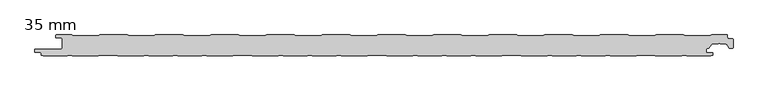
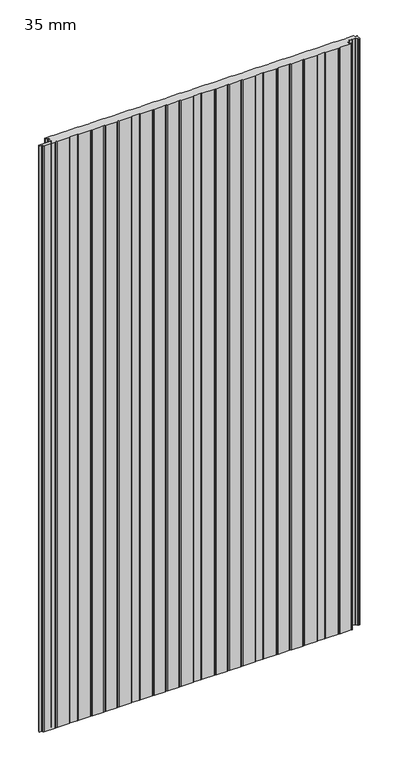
"""IFC4 building model written with IfcOpenShell, lengths in millimetres: plate geometry, HIANSA PANEL - H20.F02.002-PANELES DE FACHADA VERTICAL - PANEL PERFILADO - Panel de Muro Cortina : 35 mm."""

from ifc_helpers import new_model, si_unit, frame, origin, place, context, project, spatial, polyline, circle_curve, source, transform, mapped, element, save
from ifc_brep_helpers import plane_surface, cylinder_surface, revolved_surface, advanced_brep


def plate_35_mm_bfe862cc(model_context):
    return source(origin(), model_context, "Body", "AdvancedBrep", [
        advanced_brep(
        [(538.9050596, -33.8752798, 2200.0), (539.9655098, -32.5170803, 2200.0), (539.9655098, -29.8776596, 2200.0), (530.7999998, -29.8776596, 2200.0), (529.2999998, -28.3776596, 2200.0), (529.2999998, -24.1276596, 2200.0), (530.7999998, -22.6276596, 2200.0), (532.401303, -22.6276596, 2200.0), (533.630031, -21.9880243, 2200.0), (537.8715505, -15.9305067, 2200.0), (539.5098546, -15.0776596, 2200.0), (548.6062273, -15.0776596, 2200.0), (549.7990477, -14.3889845, 2200.0), (550.7990477, -14.3889845, 2200.0), (551.991868, -15.0776596, 2200.0), (561.0896683, -15.0776596, 2200.0), (562.7279724, -15.9305067, 2200.0), (566.9694918, -21.9880243, 2200.0), (568.1982199, -22.6276596, 2200.0), (571.5805695, -22.6276596, 2200.0), (573.0805695, -21.1276596, 2200.0), (573.0810464, -7.7494039, 2200.0), (572.0803311, -6.7486887, 2200.0), (565.9337882, -6.7486887, 2200.0), (563.9323512, -4.7472517, 2200.0), (563.9323512, -1.4941037, 2200.0), (562.9382476, -0.5, 2200.0), (538.0627765, -0.5, 2200.0), (535.0504226, -1.5005169, 2200.0), (494.888145, -1.5005169, 2200.0), (491.8865943, -0.5, 2200.0), (447.0519733, -0.5, 2200.0), (444.0504226, -1.5005169, 2200.0), (403.888145, -1.5005169, 2200.0), (400.8865943, -0.5, 2200.0), (356.0519733, -0.5, 2200.0), (353.0504226, -1.5005169, 2200.0), (312.888145, -1.5005169, 2200.0), (309.8865943, -0.5, 2200.0), (265.0519733, -0.5, 2200.0), (262.0504226, -1.5005169, 2200.0), (221.888145, -1.5005169, 2200.0), (218.8865943, -0.5, 2200.0), (174.0519733, -0.5, 2200.0), (171.0504226, -1.5005169, 2200.0), (130.888145, -1.5005169, 2200.0), (127.8865943, -0.5, 2200.0), (83.0519733, -0.5, 2200.0), (80.0504226, -1.5005169, 2200.0), (39.888145, -1.5005169, 2200.0), (36.8865943, -0.5, 2200.0), (-7.9480267, -0.5, 2200.0), (-10.9495774, -1.5005169, 2200.0), (-51.111855, -1.5005169, 2200.0), (-54.1134057, -0.5, 2200.0), (-98.9480267, -0.5, 2200.0), (-101.9495774, -1.5005169, 2200.0), (-142.111855, -1.5005169, 2200.0), (-145.1134057, -0.5, 2200.0), (-189.9480267, -0.5, 2200.0), (-192.9495774, -1.5005169, 2200.0), (-233.111855, -1.5005169, 2200.0), (-236.1134057, -0.5, 2200.0), (-280.9480267, -0.5, 2200.0), (-283.9495774, -1.5005169, 2200.0), (-324.111855, -1.5005169, 2200.0), (-327.1134057, -0.5, 2200.0), (-371.9480267, -0.5, 2200.0), (-374.9495774, -1.5005169, 2200.0), (-415.111855, -1.5005169, 2200.0), (-418.1134057, -0.5, 2200.0), (-462.9480267, -0.5, 2200.0), (-465.9495774, -1.5005169, 2200.0), (-506.111855, -1.5005169, 2200.0), (-509.1037329, -0.5, 2200.0), (-534.0319041, -0.5, 2200.0), (-535.0319599, -1.5000258, 2200.0), (-535.0322739, -4.4999967, 2200.0), (-534.0322682, -5.5000043, 2200.0), (-526.4181879, -5.5004096, 2200.0), (-524.3789536, -7.5396439, 2200.0), (-524.3789536, -21.3470846, 2200.0), (-526.9158188, -23.8839497, 2200.0), (-569.2000002, -23.8839497, 2200.0), (-569.2000002, -28.6276596, 2200.0), (-560.5344902, -28.6276596, 2200.0), (-559.0344903, -30.1276596, 2200.0), (-559.0344903, -32.5178943, 2200.0), (-557.9748297, -33.8750825, 2200.0), (-555.4751594, -34.5, 2200.0), (-516.3760428, -34.5, 2200.0), (-512.31449, -33.4846118, 2200.0), (-508.2529372, -34.5, 2200.0), (-465.1734067, -34.5, 2200.0), (-462.1734067, -33.5, 2200.0), (-436.899129, -33.5, 2200.0), (-433.899129, -34.5, 2200.0), (-390.8195984, -34.5, 2200.0), (-386.7580456, -33.4846118, 2200.0), (-382.6964928, -34.5, 2200.0), (-343.5973762, -34.5, 2200.0), (-339.5358234, -33.4846118, 2200.0), (-335.4742706, -34.5, 2200.0), (-296.375154, -34.5, 2200.0), (-292.3136012, -33.4846118, 2200.0), (-288.2520484, -34.5, 2200.0), (-245.1725179, -34.5, 2200.0), (-242.1725179, -33.5, 2200.0), (-216.8982402, -33.5, 2200.0), (-213.8982402, -34.5, 2200.0), (-170.8187096, -34.5, 2200.0), (-166.7571568, -33.4846118, 2200.0), (-162.695604, -34.5, 2200.0), (-123.5964874, -34.5, 2200.0), (-119.5349346, -33.4846118, 2200.0), (-115.4733818, -34.5, 2200.0), (-76.3742652, -34.5, 2200.0), (-72.3127124, -33.4846118, 2200.0), (-68.2511596, -34.5, 2200.0), (-25.1716291, -34.5, 2200.0), (-22.1716291, -33.5, 2200.0), (3.1026486, -33.5, 2200.0), (6.1026486, -34.5, 2200.0), (49.1821792, -34.5, 2200.0), (53.243732, -33.4846118, 2200.0), (57.3052848, -34.5, 2200.0), (96.4044014, -34.5, 2200.0), (100.4659542, -33.4846118, 2200.0), (104.527507, -34.5, 2200.0), (143.6266236, -34.5, 2200.0), (147.6881764, -33.4846118, 2200.0), (151.7497292, -34.5, 2200.0), (194.8292597, -34.5, 2200.0), (197.8292597, -33.5, 2200.0), (223.1035374, -33.5, 2200.0), (226.1035374, -34.5, 2200.0), (269.183068, -34.5, 2200.0), (273.2446208, -33.4846118, 2200.0), (277.3061736, -34.5, 2200.0), (316.4052902, -34.5, 2200.0), (320.466843, -33.4846118, 2200.0), (324.5283958, -34.5, 2200.0), (363.6275124, -34.5, 2200.0), (367.6890652, -33.4846118, 2200.0), (371.750618, -34.5, 2200.0), (414.8301485, -34.5, 2200.0), (417.8301485, -33.5, 2200.0), (443.1044262, -33.5, 2200.0), (446.1044262, -34.5, 2200.0), (489.1839568, -34.5, 2200.0), (493.2455096, -33.4846118, 2200.0), (497.3070624, -34.5, 2200.0), (536.406179, -34.5, 2200.0), (538.9050596, -33.8752798, 0.0), (536.406179, -34.5, 0.0), (497.3070624, -34.5, 0.0), (493.2455096, -33.4846118, 0.0), (489.1839568, -34.5, 0.0), (446.1044262, -34.5, 0.0), (443.1044262, -33.5, 0.0), (417.8301485, -33.5, 0.0), (414.8301485, -34.5, 0.0), (371.750618, -34.5, 0.0), (367.6890652, -33.4846118, 0.0), (363.6275124, -34.5, 0.0), (324.5283958, -34.5, 0.0), (320.466843, -33.4846118, 0.0), (316.4052902, -34.5, 0.0), (277.3061736, -34.5, 0.0), (273.2446208, -33.4846118, 0.0), (269.183068, -34.5, 0.0), (226.1035374, -34.5, 0.0), (223.1035374, -33.5, 0.0), (197.8292597, -33.5, 0.0), (194.8292597, -34.5, 0.0), (151.7497292, -34.5, 0.0), (147.6881764, -33.4846118, 0.0), (143.6266236, -34.5, 0.0), (104.527507, -34.5, 0.0), (100.4659542, -33.4846118, 0.0), (96.4044014, -34.5, 0.0), (57.3052848, -34.5, 0.0), (53.243732, -33.4846118, 0.0), (49.1821792, -34.5, 0.0), (6.1026486, -34.5, 0.0), (3.1026486, -33.5, 0.0), (-22.1716291, -33.5, 0.0), (-25.1716291, -34.5, 0.0), (-68.2511596, -34.5, 0.0), (-72.3127124, -33.4846118, 0.0), (-76.3742652, -34.5, 0.0), (-115.4733818, -34.5, 0.0), (-119.5349346, -33.4846118, 0.0), (-123.5964874, -34.5, 0.0), (-162.695604, -34.5, 0.0), (-166.7571568, -33.4846118, 0.0), (-170.8187096, -34.5, 0.0), (-213.8982402, -34.5, 0.0), (-216.8982402, -33.5, 0.0), (-242.1725179, -33.5, 0.0), (-245.1725179, -34.5, 0.0), (-288.2520484, -34.5, 0.0), (-292.3136012, -33.4846118, 0.0), (-296.375154, -34.5, 0.0), (-335.4742706, -34.5, 0.0), (-339.5358234, -33.4846118, 0.0), (-343.5973762, -34.5, 0.0), (-382.6964928, -34.5, 0.0), (-386.7580456, -33.4846118, 0.0), (-390.8195984, -34.5, 0.0), (-433.899129, -34.5, 0.0), (-436.899129, -33.5, 0.0), (-462.1734067, -33.5, 0.0), (-465.1734067, -34.5, 0.0), (-508.2529372, -34.5, 0.0), (-512.31449, -33.4846118, 0.0), (-516.3760428, -34.5, 0.0), (-555.4751594, -34.5, 0.0), (-557.9748297, -33.8750825, 0.0), (-559.0344903, -32.5178943, 0.0), (-559.0344903, -30.1276596, 0.0), (-560.5344902, -28.6276596, 0.0), (-569.2000002, -28.6276596, 0.0), (-569.2000002, -23.8839497, 0.0), (-526.9158188, -23.8839497, 0.0), (-524.3789536, -21.3470846, 0.0), (-524.3789536, -7.5396439, 0.0), (-526.4181879, -5.5004096, 0.0), (-534.0322682, -5.5004096, 0.0), (-535.0322739, -4.4999967, 0.0), (-535.0319599, -1.5000258, 0.0), (-534.0319041, -0.5, 0.0), (-509.1037329, -0.5, 0.0), (-506.111855, -1.5005169, 0.0), (-465.9495774, -1.5005169, 0.0), (-462.9480267, -0.5, 0.0), (-418.1134057, -0.5, 0.0), (-415.111855, -1.5005169, 0.0), (-374.9495774, -1.5005169, 0.0), (-371.9480267, -0.5, 0.0), (-327.1134057, -0.5, 0.0), (-324.111855, -1.5005169, 0.0), (-283.9495774, -1.5005169, 0.0), (-280.9480267, -0.5, 0.0), (-236.1134057, -0.5, 0.0), (-233.111855, -1.5005169, 0.0), (-192.9495774, -1.5005169, 0.0), (-189.9480267, -0.5, 0.0), (-145.1134057, -0.5, 0.0), (-142.111855, -1.5005169, 0.0), (-101.9495774, -1.5005169, 0.0), (-98.9480267, -0.5, 0.0), (-54.1134057, -0.5, 0.0), (-51.111855, -1.5005169, 0.0), (-10.9495774, -1.5005169, 0.0), (-7.9480267, -0.5, 0.0), (36.8865943, -0.5, 0.0), (39.888145, -1.5005169, 0.0), (80.0504226, -1.5005169, 0.0), (83.0519733, -0.5, 0.0), (127.8865943, -0.5, 0.0), (130.888145, -1.5005169, 0.0), (171.0504226, -1.5005169, 0.0), (174.0519733, -0.5, 0.0), (218.8865943, -0.5, 0.0), (221.888145, -1.5005169, 0.0), (262.0504226, -1.5005169, 0.0), (265.0519733, -0.5, 0.0), (309.8865943, -0.5, 0.0), (312.888145, -1.5005169, 0.0), (353.0504226, -1.5005169, 0.0), (356.0519733, -0.5, 0.0), (400.8865943, -0.5, 0.0), (403.888145, -1.5005169, 0.0), (444.0504226, -1.5005169, 0.0), (447.0519733, -0.5, 0.0), (491.8865943, -0.5, 0.0), (494.888145, -1.5005169, 0.0), (535.0504226, -1.5005169, 0.0), (538.0627765, -0.5, 0.0), (562.9382476, -0.5, 0.0), (563.9323512, -1.4941037, 0.0), (563.9323512, -4.7472517, 0.0), (565.9337882, -6.7486887, 0.0), (572.0803311, -6.7486887, 0.0), (573.0810464, -7.7494039, 0.0), (573.0810464, -21.1276596, 0.0), (571.5805695, -22.6276596, 0.0), (568.1982199, -22.6276596, 0.0), (566.9694918, -21.9880243, 0.0), (562.7279724, -15.9305067, 0.0), (561.0896683, -15.0776596, 0.0), (551.991868, -15.0776596, 0.0), (550.7990477, -14.3889845, 0.0), (549.7990477, -14.3889845, 0.0), (548.6062273, -15.0776596, 0.0), (539.5098546, -15.0776596, 0.0), (537.8715505, -15.9305067, 0.0), (533.630031, -21.9880243, 0.0), (532.401303, -22.6276596, 0.0), (530.7999998, -22.6276596, 0.0), (529.2999998, -24.1276596, 0.0), (529.2999998, -28.3776596, 0.0), (530.7999998, -29.8776596, 0.0), (539.9655098, -29.8776596, 0.0), (539.9655098, -32.5170803, 0.0)],
        [
            (0, 1, circle_curve(frame((538.5655098, -32.5170803, 2200.0), z_axis=(0.0, 0.0, 1.0), x_axis=(1.0, 0.0, 0.0)), 1.4)),
            (1, 2),
            (2, 3),
            (3, 4, circle_curve(frame((530.7999998, -28.3776596, 2200.0), z_axis=(0.0, 0.0, -1.0), x_axis=(1.0, 0.0, 0.0)), 1.5)),
            (4, 5),
            (5, 6, circle_curve(frame((530.7999998, -24.1276596, 2200.0), z_axis=(0.0, 0.0, -1.0), x_axis=(1.0, 0.0, 0.0)), 1.5)),
            (6, 7),
            (7, 8, circle_curve(frame((532.401303, -21.1276596, 2200.0), z_axis=(0.0, 0.0, 1.0), x_axis=(1.0, 0.0, 0.0)), 1.5)),
            (8, 9),
            (9, 10, circle_curve(frame((539.5098546, -17.0776596, 2200.0), z_axis=(0.0, 0.0, -1.0), x_axis=(1.0, 0.0, 0.0)), 2.0)),
            (10, 11),
            (11, 12),
            (12, 13, circle_curve(frame((550.2990477, -15.2550099, 2200.0), z_axis=(0.0, 0.0, -1.0), x_axis=(1.0, 0.0, 0.0)), 1.0)),
            (13, 14),
            (14, 15),
            (15, 16, circle_curve(frame((561.0896683, -17.0776596, 2200.0), z_axis=(0.0, 0.0, -1.0), x_axis=(1.0, 0.0, 0.0)), 2.0)),
            (16, 17),
            (17, 18, circle_curve(frame((568.1982199, -21.1276596, 2200.0), z_axis=(0.0, 0.0, 1.0), x_axis=(1.0, 0.0, 0.0)), 1.5)),
            (18, 19),
            (19, 20, circle_curve(frame((571.5805695, -21.1276596, 2200.0), z_axis=(0.0, 0.0, 1.0), x_axis=(1.0, 0.0, 0.0)), 1.5)),
            (20, 21),
            (21, 22, circle_curve(frame((572.0803311, -7.7494039, 2200.0), z_axis=(0.0, 0.0, 1.0), x_axis=(1.0, 0.0, 0.0)), 1.0007153)),
            (22, 23),
            (23, 24, circle_curve(frame((565.9337882, -4.7472517, 2200.0), z_axis=(0.0, 0.0, -1.0), x_axis=(1.0, 0.0, 0.0)), 2.0014369)),
            (24, 25),
            (25, 26, circle_curve(frame((562.9382476, -1.4941037, 2200.0), z_axis=(0.0, 0.0, 1.0), x_axis=(1.0, 0.0, 0.0)), 0.9941037)),
            (26, 27),
            (27, 28),
            (28, 29),
            (29, 30),
            (30, 31),
            (31, 32),
            (32, 33),
            (33, 34),
            (34, 35),
            (35, 36),
            (36, 37),
            (37, 38),
            (38, 39),
            (39, 40),
            (40, 41),
            (41, 42),
            (42, 43),
            (43, 44),
            (44, 45),
            (45, 46),
            (46, 47),
            (47, 48),
            (48, 49),
            (49, 50),
            (50, 51),
            (51, 52),
            (52, 53),
            (53, 54),
            (54, 55),
            (55, 56),
            (56, 57),
            (57, 58),
            (58, 59),
            (59, 60),
            (60, 61),
            (61, 62),
            (62, 63),
            (63, 64),
            (64, 65),
            (65, 66),
            (66, 67),
            (67, 68),
            (68, 69),
            (69, 70),
            (70, 71),
            (71, 72),
            (72, 73),
            (73, 74),
            (74, 75),
            (75, 76, circle_curve(frame((-534.0319041, -1.5000558, 2200.0), z_axis=(0.0, 0.0, 1.0), x_axis=(1.0, 0.0, 0.0)), 1.0000558)),
            (76, 77),
            (77, 78, circle_curve(frame((-534.0322682, -4.4999986, 2200.0), z_axis=(0.0, 0.0, 1.0), x_axis=(1.0, 0.0, 0.0)), 1.0000057)),
            (78, 79),
            (79, 80, circle_curve(frame((-526.4181879, -7.5396439, 2200.0), z_axis=(0.0, 0.0, -1.0), x_axis=(1.0, 0.0, 0.0)), 2.0392343)),
            (80, 81),
            (81, 82, circle_curve(frame((-526.9158188, -21.3470846, 2200.0), z_axis=(0.0, 0.0, -1.0), x_axis=(1.0, 0.0, 0.0)), 2.5368651)),
            (82, 83),
            (83, 84),
            (84, 85),
            (85, 86, circle_curve(frame((-560.5344902, -30.1276596, 2200.0), z_axis=(0.0, 0.0, -1.0), x_axis=(1.0, 0.0, 0.0)), 1.5)),
            (86, 87),
            (87, 88, circle_curve(frame((-557.6355327, -32.5178943, 2200.0), z_axis=(0.0, 0.0, 1.0), x_axis=(1.0, 0.0, 0.0)), 1.3989576)),
            (88, 89),
            (89, 90),
            (90, 91),
            (91, 92),
            (92, 93),
            (93, 94),
            (94, 95),
            (95, 96),
            (96, 97),
            (97, 98),
            (98, 99),
            (99, 100),
            (100, 101),
            (101, 102),
            (102, 103),
            (103, 104),
            (104, 105),
            (105, 106),
            (106, 107),
            (107, 108),
            (108, 109),
            (109, 110),
            (110, 111),
            (111, 112),
            (112, 113),
            (113, 114),
            (114, 115),
            (115, 116),
            (116, 117),
            (117, 118),
            (118, 119),
            (119, 120),
            (120, 121),
            (121, 122),
            (122, 123),
            (123, 124),
            (124, 125),
            (125, 126),
            (126, 127),
            (127, 128),
            (128, 129),
            (129, 130),
            (130, 131),
            (131, 132),
            (132, 133),
            (133, 134),
            (134, 135),
            (135, 136),
            (136, 137),
            (137, 138),
            (138, 139),
            (139, 140),
            (140, 141),
            (141, 142),
            (142, 143),
            (143, 144),
            (144, 145),
            (145, 146),
            (146, 147),
            (147, 148),
            (148, 149),
            (149, 150),
            (150, 151),
            (151, 152),
            (152, 0),
            (153, 154),
            (154, 155),
            (155, 156),
            (156, 157),
            (157, 158),
            (158, 159),
            (159, 160),
            (160, 161),
            (161, 162),
            (162, 163),
            (163, 164),
            (164, 165),
            (165, 166),
            (166, 167),
            (167, 168),
            (168, 169),
            (169, 170),
            (170, 171),
            (171, 172),
            (172, 173),
            (173, 174),
            (174, 175),
            (175, 176),
            (176, 177),
            (177, 178),
            (178, 179),
            (179, 180),
            (180, 181),
            (181, 182),
            (182, 183),
            (183, 184),
            (184, 185),
            (185, 186),
            (186, 187),
            (187, 188),
            (188, 189),
            (189, 190),
            (190, 191),
            (191, 192),
            (192, 193),
            (193, 194),
            (194, 195),
            (195, 196),
            (196, 197),
            (197, 198),
            (198, 199),
            (199, 200),
            (200, 201),
            (201, 202),
            (202, 203),
            (203, 204),
            (204, 205),
            (205, 206),
            (206, 207),
            (207, 208),
            (208, 209),
            (209, 210),
            (210, 211),
            (211, 212),
            (212, 213),
            (213, 214),
            (214, 215),
            (215, 216),
            (216, 217),
            (217, 218),
            (218, 219, circle_curve(frame((-557.6355327, -32.5178943, 0.0), z_axis=(0.0, 0.0, -1.0), x_axis=(1.0, 0.0, 0.0)), 1.3989576)),
            (219, 220),
            (220, 221, circle_curve(frame((-560.5344902, -30.1276596, 0.0), z_axis=(0.0, 0.0, 1.0), x_axis=(1.0, 0.0, 0.0)), 1.5)),
            (221, 222),
            (222, 223),
            (223, 224),
            (224, 225, circle_curve(frame((-526.9158188, -21.3470846, 0.0), z_axis=(0.0, 0.0, 1.0), x_axis=(1.0, 0.0, 0.0)), 2.5368651)),
            (225, 226),
            (226, 227, circle_curve(frame((-526.4181879, -7.5396439, 0.0), z_axis=(0.0, 0.0, 1.0), x_axis=(1.0, 0.0, 0.0)), 2.0392343)),
            (227, 228),
            (228, 229, circle_curve(frame((-534.0322682, -4.4999986, 0.0), z_axis=(0.0, 0.0, -1.0), x_axis=(1.0, 0.0, 0.0)), 1.0000057)),
            (229, 230),
            (230, 231, circle_curve(frame((-534.0319041, -1.5000558, 0.0), z_axis=(0.0, 0.0, -1.0), x_axis=(1.0, 0.0, 0.0)), 1.0000558)),
            (231, 232),
            (232, 233),
            (233, 234),
            (234, 235),
            (235, 236),
            (236, 237),
            (237, 238),
            (238, 239),
            (239, 240),
            (240, 241),
            (241, 242),
            (242, 243),
            (243, 244),
            (244, 245),
            (245, 246),
            (246, 247),
            (247, 248),
            (248, 249),
            (249, 250),
            (250, 251),
            (251, 252),
            (252, 253),
            (253, 254),
            (254, 255),
            (255, 256),
            (256, 257),
            (257, 258),
            (258, 259),
            (259, 260),
            (260, 261),
            (261, 262),
            (262, 263),
            (263, 264),
            (264, 265),
            (265, 266),
            (266, 267),
            (267, 268),
            (268, 269),
            (269, 270),
            (270, 271),
            (271, 272),
            (272, 273),
            (273, 274),
            (274, 275),
            (275, 276),
            (276, 277),
            (277, 278),
            (278, 279),
            (279, 280),
            (280, 281, circle_curve(frame((562.9382476, -1.4941037, 0.0), z_axis=(0.0, 0.0, -1.0), x_axis=(1.0, 0.0, 0.0)), 0.9941037)),
            (281, 282),
            (282, 283, circle_curve(frame((565.9337882, -4.7472517, 0.0), z_axis=(0.0, 0.0, 1.0), x_axis=(1.0, 0.0, 0.0)), 2.0014369)),
            (283, 284),
            (284, 285, circle_curve(frame((572.0803311, -7.7494039, 0.0), z_axis=(0.0, 0.0, -1.0), x_axis=(1.0, 0.0, 0.0)), 1.0007153)),
            (285, 286),
            (286, 287, circle_curve(frame((571.5805695, -21.1276596, 0.0), z_axis=(0.0, 0.0, -1.0), x_axis=(1.0, 0.0, 0.0)), 1.5)),
            (287, 288),
            (288, 289, circle_curve(frame((568.1982199, -21.1276596, 0.0), z_axis=(0.0, 0.0, -1.0), x_axis=(1.0, 0.0, 0.0)), 1.5)),
            (289, 290),
            (290, 291, circle_curve(frame((561.0896683, -17.0776596, 0.0), z_axis=(0.0, 0.0, 1.0), x_axis=(1.0, 0.0, 0.0)), 2.0)),
            (291, 292),
            (292, 293),
            (293, 294, circle_curve(frame((550.2990477, -15.2550099, 0.0), z_axis=(0.0, 0.0, 1.0), x_axis=(1.0, 0.0, 0.0)), 1.0)),
            (294, 295),
            (295, 296),
            (296, 297, circle_curve(frame((539.5098546, -17.0776596, 0.0), z_axis=(0.0, 0.0, 1.0), x_axis=(1.0, 0.0, 0.0)), 2.0)),
            (297, 298),
            (298, 299, circle_curve(frame((532.401303, -21.1276596, 0.0), z_axis=(0.0, 0.0, -1.0), x_axis=(1.0, 0.0, 0.0)), 1.5)),
            (299, 300),
            (300, 301, circle_curve(frame((530.7999998, -24.1276596, 0.0), z_axis=(0.0, 0.0, 1.0), x_axis=(1.0, 0.0, 0.0)), 1.5)),
            (301, 302),
            (302, 303, circle_curve(frame((530.7999998, -28.3776596, 0.0), z_axis=(0.0, 0.0, 1.0), x_axis=(1.0, 0.0, 0.0)), 1.5)),
            (303, 304),
            (304, 305),
            (305, 153, circle_curve(frame((538.5655098, -32.5170803, 0.0), z_axis=(0.0, 0.0, -1.0), x_axis=(1.0, 0.0, 0.0)), 1.4)),
            (88, 218),
            (217, 89),
            (87, 219),
            (86, 220),
            (85, 221),
            (84, 222),
            (83, 223),
            (82, 224),
            (81, 225),
            (80, 226),
            (79, 227),
            (78, 228),
            (25, 281),
            (280, 26),
            (24, 282),
            (23, 283),
            (21, 285),
            (284, 22),
            (20, 286),
            (19, 287),
            (18, 288),
            (17, 289),
            (16, 290),
            (15, 291),
            (9, 297),
            (296, 10),
            (8, 298),
            (7, 299),
            (6, 300),
            (5, 301),
            (4, 302),
            (3, 303),
            (2, 304),
            (1, 305),
            (0, 153),
            (152, 154),
            (151, 155),
            (150, 156),
            (149, 157),
            (148, 158),
            (147, 159),
            (146, 160),
            (145, 161),
            (144, 162),
            (143, 163),
            (142, 164),
            (141, 165),
            (140, 166),
            (139, 167),
            (138, 168),
            (137, 169),
            (136, 170),
            (135, 171),
            (134, 172),
            (133, 173),
            (132, 174),
            (131, 175),
            (130, 176),
            (129, 177),
            (128, 178),
            (127, 179),
            (126, 180),
            (125, 181),
            (124, 182),
            (123, 183),
            (122, 184),
            (121, 185),
            (120, 186),
            (119, 187),
            (118, 188),
            (117, 189),
            (116, 190),
            (115, 191),
            (114, 192),
            (113, 193),
            (112, 194),
            (111, 195),
            (110, 196),
            (109, 197),
            (108, 198),
            (107, 199),
            (106, 200),
            (105, 201),
            (104, 202),
            (103, 203),
            (102, 204),
            (101, 205),
            (100, 206),
            (99, 207),
            (98, 208),
            (97, 209),
            (96, 210),
            (95, 211),
            (94, 212),
            (93, 213),
            (92, 214),
            (91, 215),
            (90, 216),
            (74, 232),
            (231, 75),
            (73, 233),
            (72, 234),
            (71, 235),
            (70, 236),
            (69, 237),
            (68, 238),
            (67, 239),
            (66, 240),
            (65, 241),
            (64, 242),
            (63, 243),
            (62, 244),
            (61, 245),
            (60, 246),
            (59, 247),
            (58, 248),
            (57, 249),
            (56, 250),
            (55, 251),
            (54, 252),
            (53, 253),
            (52, 254),
            (51, 255),
            (50, 256),
            (49, 257),
            (48, 258),
            (47, 259),
            (46, 260),
            (45, 261),
            (44, 262),
            (43, 263),
            (42, 264),
            (41, 265),
            (40, 266),
            (39, 267),
            (38, 268),
            (37, 269),
            (36, 270),
            (35, 271),
            (34, 272),
            (33, 273),
            (32, 274),
            (31, 275),
            (30, 276),
            (29, 277),
            (28, 278),
            (27, 279),
            (14, 292),
            (13, 293),
            (12, 294),
            (11, 295),
            (77, 229),
            (76, 230),
        ],
        [
            plane_surface(frame((-550.0000002, 0.0, 2200.0), z_axis=(0.0, 0.0, 1.0), x_axis=(-1.0, 0.0, 0.0))),
            plane_surface(frame((-550.0000002, 0.0, 0.0), z_axis=(0.0, 0.0, -1.0), x_axis=(-1.0, 0.0, 0.0))),
            plane_surface(frame((-555.4751594, -34.5, 2200.0), z_axis=(-0.2425356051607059, -0.9701425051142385, 0.0), x_axis=(0.0, 0.0, -1.0))),
            cylinder_surface(frame((-557.6355327, -32.5178943, 2200.0), z_axis=(0.0, 0.0, 1.0), x_axis=(1.0, 0.0, 0.0)), 1.3989576),
            plane_surface(frame((-559.0344903, -32.5178943, 2200.0), z_axis=(-1.0, 0.0, 0.0), x_axis=(0.0, 0.0, -1.0))),
            revolved_surface(polyline([(-559.0344902, -30.1276596, 0.0), (-559.0344902, -30.1276596, 2200.0)]), (-560.5344902, -30.1276596, 2200.0), (0.0, 0.0, -1.0)),
            plane_surface(frame((-560.5344902, -28.6276596, 2200.0), z_axis=(0.0, -1.0, 0.0), x_axis=(0.0, 0.0, -1.0))),
            plane_surface(frame((-569.2000002, -28.6276596, 2200.0), z_axis=(-1.0, 0.0, 0.0), x_axis=(0.0, 0.0, -1.0))),
            plane_surface(frame((-569.2000002, -23.8839497, 2200.0), z_axis=(0.0, 1.0, 0.0), x_axis=(0.0, 0.0, -1.0))),
            revolved_surface(polyline([(-524.3789537, -21.3470846, 0.0), (-524.3789537, -21.3470846, 2200.0)]), (-526.9158188, -21.3470846, 2200.0), (0.0, 0.0, -1.0)),
            plane_surface(frame((-524.3789536, -21.3470846, 2200.0), z_axis=(-1.0, 0.0, 0.0), x_axis=(0.0, 0.0, -1.0))),
            revolved_surface(polyline([(-524.3789536, -7.5396439, 0.0), (-524.3789536, -7.5396439, 2200.0)]), (-526.4181879, -7.5396439, 2200.0), (0.0, 0.0, -1.0)),
            plane_surface(frame((-526.4181879, -5.5004096, 2200.0), z_axis=(0.0, -1.0, 0.0), x_axis=(0.0, 0.0, -1.0))),
            cylinder_surface(frame((562.9382476, -1.4941037, 2200.0), z_axis=(0.0, 0.0, 1.0), x_axis=(1.0, 0.0, 0.0)), 0.9941037),
            plane_surface(frame((563.9323512, -1.4941037, 2200.0), z_axis=(1.0, 0.0, 0.0), x_axis=(0.0, 0.0, -1.0))),
            revolved_surface(polyline([(567.9352251, -4.7472517, 0.0), (567.9352251, -4.7472517, 2200.0)]), (565.9337882, -4.7472517, 2200.0), (0.0, 0.0, -1.0)),
            cylinder_surface(frame((572.0803311, -7.7494039, 2200.0), z_axis=(0.0, 0.0, 1.0), x_axis=(1.0, 0.0, 0.0)), 1.0007153),
            plane_surface(frame((573.0810464, -7.7494039, 2200.0), z_axis=(1.0, 0.0, 0.0), x_axis=(0.0, 0.0, -1.0))),
            cylinder_surface(frame((571.5805695, -21.1276596, 2200.0), z_axis=(0.0, 0.0, 1.0), x_axis=(1.0, 0.0, 0.0)), 1.5),
            plane_surface(frame((571.5805695, -22.6276596, 2200.0), z_axis=(0.0, -1.0, 0.0), x_axis=(0.0, 0.0, -1.0))),
            cylinder_surface(frame((568.1982199, -21.1276596, 2200.0), z_axis=(0.0, 0.0, 1.0), x_axis=(1.0, 0.0, 0.0)), 1.5),
            plane_surface(frame((566.9694918, -21.9880243, 2200.0), z_axis=(-0.8191520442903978, -0.5735764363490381, 0.0), x_axis=(0.0, 0.0, -1.0))),
            revolved_surface(polyline([(563.0896683, -17.0776596, 0.0), (563.0896683, -17.0776596, 2200.0)]), (561.0896683, -17.0776596, 2200.0), (0.0, 0.0, -1.0)),
            revolved_surface(polyline([(541.5098546, -17.0776596, 0.0), (541.5098546, -17.0776596, 2200.0)]), (539.5098546, -17.0776596, 2200.0), (0.0, 0.0, -1.0)),
            plane_surface(frame((537.8715505, -15.9305067, 2200.0), z_axis=(0.8191520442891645, -0.5735764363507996, 0.0), x_axis=(0.0, 0.0, -1.0))),
            cylinder_surface(frame((532.401303, -21.1276596, 2200.0), z_axis=(0.0, 0.0, 1.0), x_axis=(1.0, 0.0, 0.0)), 1.5),
            plane_surface(frame((532.401303, -22.6276596, 2200.0), z_axis=(0.0, -1.0, 0.0), x_axis=(0.0, 0.0, -1.0))),
            revolved_surface(polyline([(532.2999998, -24.1276596, 0.0), (532.2999998, -24.1276596, 2200.0)]), (530.7999998, -24.1276596, 2200.0), (0.0, 0.0, -1.0)),
            plane_surface(frame((529.2999998, -24.1276596, 2200.0), z_axis=(1.0, 0.0, 0.0), x_axis=(0.0, 0.0, -1.0))),
            revolved_surface(polyline([(532.2999998, -28.3776596, 0.0), (532.2999998, -28.3776596, 2200.0)]), (530.7999998, -28.3776596, 2200.0), (0.0, 0.0, -1.0)),
            plane_surface(frame((530.7999998, -29.8776596, 2200.0), z_axis=(0.0, 1.0, 0.0), x_axis=(0.0, 0.0, -1.0))),
            plane_surface(frame((539.9655098, -29.8776596, 2200.0), z_axis=(1.0, 0.0, 0.0), x_axis=(0.0, 0.0, -1.0))),
            cylinder_surface(frame((538.5655098, -32.5170803, 2200.0), z_axis=(0.0, 0.0, 1.0), x_axis=(1.0, 0.0, 0.0)), 1.4),
            plane_surface(frame((538.9050596, -33.8752798, 2200.0), z_axis=(0.2425356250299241, -0.9701425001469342, 0.0), x_axis=(0.0, 0.0, -1.0))),
            plane_surface(frame((565.9337882, -6.7486887, 2200.0), z_axis=(0.0, 1.0, 0.0), x_axis=(0.0, 0.0, -1.0))),
            plane_surface(frame((536.406179, -34.5, 2200.0), z_axis=(0.0, -1.0, 0.0), x_axis=(0.0, 0.0, -1.0))),
            plane_surface(frame((497.3070624, -34.5, 2200.0), z_axis=(-0.24253562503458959, -0.9701425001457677, 0.0), x_axis=(0.0, 0.0, -1.0))),
            plane_surface(frame((493.2455096, -33.4846118, 2200.0), z_axis=(0.24253562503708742, -0.9701425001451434, 0.0), x_axis=(0.0, 0.0, -1.0))),
            plane_surface(frame((489.1839568, -34.5, 2200.0), z_axis=(0.0, -1.0, 0.0), x_axis=(0.0, 0.0, -1.0))),
            plane_surface(frame((446.1044262, -34.5, 2200.0), z_axis=(-0.3162277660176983, -0.948683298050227, 0.0), x_axis=(0.0, 0.0, -1.0))),
            plane_surface(frame((443.1044262, -33.5, 2200.0), z_axis=(0.0, -1.0, 0.0), x_axis=(0.0, 0.0, -1.0))),
            plane_surface(frame((417.8301485, -33.5, 2200.0), z_axis=(0.3162277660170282, -0.9486832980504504, 0.0), x_axis=(0.0, 0.0, -1.0))),
            plane_surface(frame((414.8301485, -34.5, 2200.0), z_axis=(0.0, -1.0, 0.0), x_axis=(0.0, 0.0, -1.0))),
            plane_surface(frame((371.750618, -34.5, 2200.0), z_axis=(-0.24253562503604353, -0.9701425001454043, 0.0), x_axis=(0.0, 0.0, -1.0))),
            plane_surface(frame((367.6890652, -33.4846118, 2200.0), z_axis=(0.24253562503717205, -0.9701425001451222, 0.0), x_axis=(0.0, 0.0, -1.0))),
            plane_surface(frame((363.6275124, -34.5, 2200.0), z_axis=(0.0, -1.0, 0.0), x_axis=(0.0, 0.0, -1.0))),
            plane_surface(frame((324.5283958, -34.5, 2200.0), z_axis=(-0.2425356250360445, -0.970142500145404, 0.0), x_axis=(0.0, 0.0, -1.0))),
            plane_surface(frame((320.466843, -33.4846118, 2200.0), z_axis=(0.24253562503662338, -0.9701425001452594, 0.0), x_axis=(0.0, 0.0, -1.0))),
            plane_surface(frame((316.4052902, -34.5, 2200.0), z_axis=(0.0, -1.0, 0.0), x_axis=(0.0, 0.0, -1.0))),
            plane_surface(frame((277.3061736, -34.5, 2200.0), z_axis=(-0.2425356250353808, -0.97014250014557, 0.0), x_axis=(0.0, 0.0, -1.0))),
            plane_surface(frame((273.2446208, -33.4846118, 2200.0), z_axis=(0.24253562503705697, -0.9701425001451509, 0.0), x_axis=(0.0, 0.0, -1.0))),
            plane_surface(frame((269.183068, -34.5, 2200.0), z_axis=(0.0, -1.0, 0.0), x_axis=(0.0, 0.0, -1.0))),
            plane_surface(frame((226.1035374, -34.5, 2200.0), z_axis=(-0.31622776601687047, -0.948683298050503, 0.0), x_axis=(0.0, 0.0, -1.0))),
            plane_surface(frame((223.1035374, -33.5, 2200.0), z_axis=(0.0, -1.0, 0.0), x_axis=(0.0, 0.0, -1.0))),
            plane_surface(frame((197.8292597, -33.5, 2200.0), z_axis=(0.31622776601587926, -0.9486832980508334, 0.0), x_axis=(0.0, 0.0, -1.0))),
            plane_surface(frame((194.8292597, -34.5, 2200.0), z_axis=(0.0, -1.0, 0.0), x_axis=(0.0, 0.0, -1.0))),
            plane_surface(frame((151.7497292, -34.5, 2200.0), z_axis=(-0.24253562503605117, -0.9701425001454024, 0.0), x_axis=(0.0, 0.0, -1.0))),
            plane_surface(frame((147.6881764, -33.4846118, 2200.0), z_axis=(0.24253562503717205, -0.9701425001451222, 0.0), x_axis=(0.0, 0.0, -1.0))),
            plane_surface(frame((143.6266236, -34.5, 2200.0), z_axis=(0.0, -1.0, 0.0), x_axis=(0.0, 0.0, -1.0))),
            plane_surface(frame((104.527507, -34.5, 2200.0), z_axis=(-0.24253562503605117, -0.9701425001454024, 0.0), x_axis=(0.0, 0.0, -1.0))),
            plane_surface(frame((100.4659542, -33.4846118, 2200.0), z_axis=(0.24253562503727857, -0.9701425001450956, 0.0), x_axis=(0.0, 0.0, -1.0))),
            plane_surface(frame((96.4044014, -34.5, 2200.0), z_axis=(0.0, -1.0, 0.0), x_axis=(0.0, 0.0, -1.0))),
            plane_surface(frame((57.3052848, -34.5, 2200.0), z_axis=(-0.24253562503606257, -0.9701425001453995, 0.0), x_axis=(0.0, 0.0, -1.0))),
            plane_surface(frame((53.243732, -33.4846118, 2200.0), z_axis=(0.24253562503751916, -0.9701425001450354, 0.0), x_axis=(0.0, 0.0, -1.0))),
            plane_surface(frame((49.1821792, -34.5, 2200.0), z_axis=(0.0, -1.0, 0.0), x_axis=(0.0, 0.0, -1.0))),
            plane_surface(frame((6.1026486, -34.5, 2200.0), z_axis=(-0.31622776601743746, -0.948683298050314, 0.0), x_axis=(0.0, 0.0, -1.0))),
            plane_surface(frame((3.1026486, -33.5, 2200.0), z_axis=(0.0, -1.0, 0.0), x_axis=(0.0, 0.0, -1.0))),
            plane_surface(frame((-22.1716291, -33.5, 2200.0), z_axis=(0.31622776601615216, -0.9486832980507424, 0.0), x_axis=(0.0, 0.0, -1.0))),
            plane_surface(frame((-25.1716291, -34.5, 2200.0), z_axis=(0.0, -1.0, 0.0), x_axis=(0.0, 0.0, -1.0))),
            plane_surface(frame((-68.2511596, -34.5, 2200.0), z_axis=(-0.24253562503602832, -0.970142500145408, 0.0), x_axis=(0.0, 0.0, -1.0))),
            plane_surface(frame((-72.3127124, -33.4846118, 2200.0), z_axis=(0.24253562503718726, -0.9701425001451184, 0.0), x_axis=(0.0, 0.0, -1.0))),
            plane_surface(frame((-76.3742652, -34.5, 2200.0), z_axis=(0.0, -1.0, 0.0), x_axis=(0.0, 0.0, -1.0))),
            plane_surface(frame((-115.4733818, -34.5, 2200.0), z_axis=(-0.24253562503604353, -0.9701425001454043, 0.0), x_axis=(0.0, 0.0, -1.0))),
            plane_surface(frame((-119.5349346, -33.4846118, 2200.0), z_axis=(0.24253562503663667, -0.970142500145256, 0.0), x_axis=(0.0, 0.0, -1.0))),
            plane_surface(frame((-123.5964874, -34.5, 2200.0), z_axis=(0.0, -1.0, 0.0), x_axis=(0.0, 0.0, -1.0))),
            plane_surface(frame((-162.695604, -34.5, 2200.0), z_axis=(-0.24253562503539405, -0.9701425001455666, 0.0), x_axis=(0.0, 0.0, -1.0))),
            plane_surface(frame((-166.7571568, -33.4846118, 2200.0), z_axis=(0.2425356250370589, -0.9701425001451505, 0.0), x_axis=(0.0, 0.0, -1.0))),
            plane_surface(frame((-170.8187096, -34.5, 2200.0), z_axis=(0.0, -1.0, 0.0), x_axis=(0.0, 0.0, -1.0))),
            plane_surface(frame((-213.8982402, -34.5, 2200.0), z_axis=(-0.316227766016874, -0.9486832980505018, 0.0), x_axis=(0.0, 0.0, -1.0))),
            plane_surface(frame((-216.8982402, -33.5, 2200.0), z_axis=(0.0, -1.0, 0.0), x_axis=(0.0, 0.0, -1.0))),
            plane_surface(frame((-242.1725179, -33.5, 2200.0), z_axis=(0.3162277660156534, -0.9486832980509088, 0.0), x_axis=(0.0, 0.0, -1.0))),
            plane_surface(frame((-245.1725179, -34.5, 2200.0), z_axis=(0.0, -1.0, 0.0), x_axis=(0.0, 0.0, -1.0))),
            plane_surface(frame((-288.2520484, -34.5, 2200.0), z_axis=(-0.24253562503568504, -0.9701425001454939, 0.0), x_axis=(0.0, 0.0, -1.0))),
            plane_surface(frame((-292.3136012, -33.4846118, 2200.0), z_axis=(0.24253562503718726, -0.9701425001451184, 0.0), x_axis=(0.0, 0.0, -1.0))),
            plane_surface(frame((-296.375154, -34.5, 2200.0), z_axis=(0.0, -1.0, 0.0), x_axis=(0.0, 0.0, -1.0))),
            plane_surface(frame((-335.4742706, -34.5, 2200.0), z_axis=(-0.24253562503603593, -0.9701425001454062, 0.0), x_axis=(0.0, 0.0, -1.0))),
            plane_surface(frame((-339.5358234, -33.4846118, 2200.0), z_axis=(0.24253562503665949, -0.9701425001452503, 0.0), x_axis=(0.0, 0.0, -1.0))),
            plane_surface(frame((-343.5973762, -34.5, 2200.0), z_axis=(0.0, -1.0, 0.0), x_axis=(0.0, 0.0, -1.0))),
            plane_surface(frame((-382.6964928, -34.5, 2200.0), z_axis=(-0.24253562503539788, -0.9701425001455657, 0.0), x_axis=(0.0, 0.0, -1.0))),
            plane_surface(frame((-386.7580456, -33.4846118, 2200.0), z_axis=(0.24253562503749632, -0.9701425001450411, 0.0), x_axis=(0.0, 0.0, -1.0))),
            plane_surface(frame((-390.8195984, -34.5, 2200.0), z_axis=(0.0, -1.0, 0.0), x_axis=(0.0, 0.0, -1.0))),
            plane_surface(frame((-433.899129, -34.5, 2200.0), z_axis=(-0.3162277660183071, -0.9486832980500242, 0.0), x_axis=(0.0, 0.0, -1.0))),
            plane_surface(frame((-436.899129, -33.5, 2200.0), z_axis=(0.0, -1.0, 0.0), x_axis=(0.0, 0.0, -1.0))),
            plane_surface(frame((-462.1734067, -33.5, 2200.0), z_axis=(0.31622776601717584, -0.9486832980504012, 0.0), x_axis=(0.0, 0.0, -1.0))),
            plane_surface(frame((-465.1734067, -34.5, 2200.0), z_axis=(0.0, -1.0, 0.0), x_axis=(0.0, 0.0, -1.0))),
            plane_surface(frame((-508.2529372, -34.5, 2200.0), z_axis=(-0.24253562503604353, -0.9701425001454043, 0.0), x_axis=(0.0, 0.0, -1.0))),
            plane_surface(frame((-512.31449, -33.4846118, 2200.0), z_axis=(0.24253562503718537, -0.9701425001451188, 0.0), x_axis=(0.0, 0.0, -1.0))),
            plane_surface(frame((-516.3760428, -34.5, 2200.0), z_axis=(0.0, -1.0, 0.0), x_axis=(0.0, 0.0, -1.0))),
            plane_surface(frame((-534.0319041, -0.5, 2200.0), z_axis=(0.0, 1.0, 0.0), x_axis=(0.0, 0.0, -1.0))),
            plane_surface(frame((-509.1037329, -0.5, 2200.0), z_axis=(0.31714744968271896, 0.9483762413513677, 0.0), x_axis=(0.0, 0.0, -1.0))),
            plane_surface(frame((-506.111855, -1.5005169, 2200.0), z_axis=(0.0, 1.0, 0.0), x_axis=(0.0, 0.0, -1.0))),
            plane_surface(frame((-465.9495774, -1.5005169, 2200.0), z_axis=(-0.316227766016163, 0.9486832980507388, 0.0), x_axis=(0.0, 0.0, -1.0))),
            plane_surface(frame((-462.9480267, -0.5, 2200.0), z_axis=(0.0, 1.0, 0.0), x_axis=(0.0, 0.0, -1.0))),
            plane_surface(frame((-418.1134057, -0.5, 2200.0), z_axis=(0.316227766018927, 0.9486832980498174, 0.0), x_axis=(0.0, 0.0, -1.0))),
            plane_surface(frame((-415.111855, -1.5005169, 2200.0), z_axis=(0.0, 1.0, 0.0), x_axis=(0.0, 0.0, -1.0))),
            plane_surface(frame((-374.9495774, -1.5005169, 2200.0), z_axis=(-0.316227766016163, 0.9486832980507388, 0.0), x_axis=(0.0, 0.0, -1.0))),
            plane_surface(frame((-371.9480267, -0.5, 2200.0), z_axis=(0.0, 1.0, 0.0), x_axis=(0.0, 0.0, -1.0))),
            plane_surface(frame((-327.1134057, -0.5, 2200.0), z_axis=(0.316227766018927, 0.9486832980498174, 0.0), x_axis=(0.0, 0.0, -1.0))),
            plane_surface(frame((-324.111855, -1.5005169, 2200.0), z_axis=(0.0, 1.0, 0.0), x_axis=(0.0, 0.0, -1.0))),
            plane_surface(frame((-283.9495774, -1.5005169, 2200.0), z_axis=(-0.3162277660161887, 0.9486832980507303, 0.0), x_axis=(0.0, 0.0, -1.0))),
            plane_surface(frame((-280.9480267, -0.5, 2200.0), z_axis=(0.0, 1.0, 0.0), x_axis=(0.0, 0.0, -1.0))),
            plane_surface(frame((-236.1134057, -0.5, 2200.0), z_axis=(0.31622776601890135, 0.9486832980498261, 0.0), x_axis=(0.0, 0.0, -1.0))),
            plane_surface(frame((-233.111855, -1.5005169, 2200.0), z_axis=(0.0, 1.0, 0.0), x_axis=(0.0, 0.0, -1.0))),
            plane_surface(frame((-192.9495774, -1.5005169, 2200.0), z_axis=(-0.316227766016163, 0.9486832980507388, 0.0), x_axis=(0.0, 0.0, -1.0))),
            plane_surface(frame((-189.9480267, -0.5, 2200.0), z_axis=(0.0, 1.0, 0.0), x_axis=(0.0, 0.0, -1.0))),
            plane_surface(frame((-145.1134057, -0.5, 2200.0), z_axis=(0.316227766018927, 0.9486832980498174, 0.0), x_axis=(0.0, 0.0, -1.0))),
            plane_surface(frame((-142.111855, -1.5005169, 2200.0), z_axis=(0.0, 1.0, 0.0), x_axis=(0.0, 0.0, -1.0))),
            plane_surface(frame((-101.9495774, -1.5005169, 2200.0), z_axis=(-0.316227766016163, 0.9486832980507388, 0.0), x_axis=(0.0, 0.0, -1.0))),
            plane_surface(frame((-98.9480267, -0.5, 2200.0), z_axis=(0.0, 1.0, 0.0), x_axis=(0.0, 0.0, -1.0))),
            plane_surface(frame((-54.1134057, -0.5, 2200.0), z_axis=(0.3162277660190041, 0.9486832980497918, 0.0), x_axis=(0.0, 0.0, -1.0))),
            plane_surface(frame((-51.111855, -1.5005169, 2200.0), z_axis=(0.0, 1.0, 0.0), x_axis=(0.0, 0.0, -1.0))),
            plane_surface(frame((-10.9495774, -1.5005169, 2200.0), z_axis=(-0.316227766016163, 0.9486832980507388, 0.0), x_axis=(0.0, 0.0, -1.0))),
            plane_surface(frame((-7.9480267, -0.5, 2200.0), z_axis=(0.0, 1.0, 0.0), x_axis=(0.0, 0.0, -1.0))),
            plane_surface(frame((36.8865943, -0.5, 2200.0), z_axis=(0.3162277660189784, 0.9486832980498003, 0.0), x_axis=(0.0, 0.0, -1.0))),
            plane_surface(frame((39.888145, -1.5005169, 2200.0), z_axis=(0.0, 1.0, 0.0), x_axis=(0.0, 0.0, -1.0))),
            plane_surface(frame((80.0504226, -1.5005169, 2200.0), z_axis=(-0.3162277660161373, 0.9486832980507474, 0.0), x_axis=(0.0, 0.0, -1.0))),
            plane_surface(frame((83.0519733, -0.5, 2200.0), z_axis=(0.0, 1.0, 0.0), x_axis=(0.0, 0.0, -1.0))),
            plane_surface(frame((127.8865943, -0.5, 2200.0), z_axis=(0.3162277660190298, 0.9486832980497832, 0.0), x_axis=(0.0, 0.0, -1.0))),
            plane_surface(frame((130.888145, -1.5005169, 2200.0), z_axis=(0.0, 1.0, 0.0), x_axis=(0.0, 0.0, -1.0))),
            plane_surface(frame((171.0504226, -1.5005169, 2200.0), z_axis=(-0.316227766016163, 0.9486832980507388, 0.0), x_axis=(0.0, 0.0, -1.0))),
            plane_surface(frame((174.0519733, -0.5, 2200.0), z_axis=(0.0, 1.0, 0.0), x_axis=(0.0, 0.0, -1.0))),
            plane_surface(frame((218.8865943, -0.5, 2200.0), z_axis=(0.3162277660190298, 0.9486832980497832, 0.0), x_axis=(0.0, 0.0, -1.0))),
            plane_surface(frame((221.888145, -1.5005169, 2200.0), z_axis=(0.0, 1.0, 0.0), x_axis=(0.0, 0.0, -1.0))),
            plane_surface(frame((262.0504226, -1.5005169, 2200.0), z_axis=(-0.316227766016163, 0.9486832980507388, 0.0), x_axis=(0.0, 0.0, -1.0))),
            plane_surface(frame((265.0519733, -0.5, 2200.0), z_axis=(0.0, 1.0, 0.0), x_axis=(0.0, 0.0, -1.0))),
            plane_surface(frame((309.8865943, -0.5, 2200.0), z_axis=(0.3162277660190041, 0.9486832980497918, 0.0), x_axis=(0.0, 0.0, -1.0))),
            plane_surface(frame((312.888145, -1.5005169, 2200.0), z_axis=(0.0, 1.0, 0.0), x_axis=(0.0, 0.0, -1.0))),
            plane_surface(frame((353.0504226, -1.5005169, 2200.0), z_axis=(-0.3162277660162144, 0.9486832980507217, 0.0), x_axis=(0.0, 0.0, -1.0))),
            plane_surface(frame((356.0519733, -0.5, 2200.0), z_axis=(0.0, 1.0, 0.0), x_axis=(0.0, 0.0, -1.0))),
            plane_surface(frame((400.8865943, -0.5, 2200.0), z_axis=(0.3162277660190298, 0.9486832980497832, 0.0), x_axis=(0.0, 0.0, -1.0))),
            plane_surface(frame((403.888145, -1.5005169, 2200.0), z_axis=(0.0, 1.0, 0.0), x_axis=(0.0, 0.0, -1.0))),
            plane_surface(frame((444.0504226, -1.5005169, 2200.0), z_axis=(-0.3162277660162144, 0.9486832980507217, 0.0), x_axis=(0.0, 0.0, -1.0))),
            plane_surface(frame((447.0519733, -0.5, 2200.0), z_axis=(0.0, 1.0, 0.0), x_axis=(0.0, 0.0, -1.0))),
            plane_surface(frame((491.8865943, -0.5, 2200.0), z_axis=(0.3162277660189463, 0.9486832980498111, 0.0), x_axis=(0.0, 0.0, -1.0))),
            plane_surface(frame((494.888145, -1.5005169, 2200.0), z_axis=(0.0, 1.0, 0.0), x_axis=(0.0, 0.0, -1.0))),
            plane_surface(frame((535.0504226, -1.5005169, 2200.0), z_axis=(-0.31520653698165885, 0.9490230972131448, 0.0), x_axis=(0.0, 0.0, -1.0))),
            plane_surface(frame((538.0627765, -0.5, 2200.0), z_axis=(0.0, 1.0, 0.0), x_axis=(0.0, 0.0, -1.0))),
            plane_surface(frame((561.0896683, -15.0776596, 2200.0), z_axis=(1.5379240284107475e-12, -1.0, 0.0), x_axis=(0.0, 0.0, -1.0))),
            plane_surface(frame((551.991868, -15.0776596, 2200.0), z_axis=(-0.49999999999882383, -0.8660254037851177, 0.0), x_axis=(0.0, 0.0, -1.0))),
            revolved_surface(polyline([(551.2990477, -15.2550099, 0.0), (551.2990477, -15.2550099, 2200.0)]), (550.2990477, -15.2550099, 2200.0), (0.0, 0.0, -1.0)),
            plane_surface(frame((549.7990477, -14.3889845, 2200.0), z_axis=(0.4999999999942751, -0.8660254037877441, 0.0), x_axis=(0.0, 0.0, -1.0))),
            plane_surface(frame((548.6062273, -15.0776596, 2200.0), z_axis=(1.2816887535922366e-12, -1.0, 0.0), x_axis=(0.0, 0.0, -1.0))),
            cylinder_surface(frame((-534.0322682, -4.4999986, 2200.0), z_axis=(0.0, 0.0, 1.0), x_axis=(1.0, 0.0, 0.0)), 1.0000057),
            plane_surface(frame((-535.0322739, -4.4999967, 2200.0), z_axis=(-0.9999999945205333, 0.00010468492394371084, 0.0), x_axis=(0.0, 0.0, -1.0))),
            cylinder_surface(frame((-534.0319041, -1.5000558, 2200.0), z_axis=(0.0, 0.0, 1.0), x_axis=(1.0, 0.0, 0.0)), 1.0000558),
        ],
        [
            (0, [[1, 2, 3, 4, 5, 6, 7, 8, 9, 10, 11, 12, 13, 14, 15, 16, 17, 18, 19, 20, 21, 22, 23, 24, 25, 26, 27, 28, 29, 30, 31, 32, 33, 34, 35, 36, 37, 38, 39, 40, 41, 42, 43, 44, 45, 46, 47, 48, 49, 50, 51, 52, 53, 54, 55, 56, 57, 58, 59, 60, 61, 62, 63, 64, 65, 66, 67, 68, 69, 70, 71, 72, 73, 74, 75, 76, 77, 78, 79, 80, 81, 82, 83, 84, 85, 86, 87, 88, 89, 90, 91, 92, 93, 94, 95, 96, 97, 98, 99, 100, 101, 102, 103, 104, 105, 106, 107, 108, 109, 110, 111, 112, 113, 114, 115, 116, 117, 118, 119, 120, 121, 122, 123, 124, 125, 126, 127, 128, 129, 130, 131, 132, 133, 134, 135, 136, 137, 138, 139, 140, 141, 142, 143, 144, 145, 146, 147, 148, 149, 150, 151, 152, 153]]),
            (1, [[154, 155, 156, 157, 158, 159, 160, 161, 162, 163, 164, 165, 166, 167, 168, 169, 170, 171, 172, 173, 174, 175, 176, 177, 178, 179, 180, 181, 182, 183, 184, 185, 186, 187, 188, 189, 190, 191, 192, 193, 194, 195, 196, 197, 198, 199, 200, 201, 202, 203, 204, 205, 206, 207, 208, 209, 210, 211, 212, 213, 214, 215, 216, 217, 218, 219, 220, 221, 222, 223, 224, 225, 226, 227, 228, 229, 230, 231, 232, 233, 234, 235, 236, 237, 238, 239, 240, 241, 242, 243, 244, 245, 246, 247, 248, 249, 250, 251, 252, 253, 254, 255, 256, 257, 258, 259, 260, 261, 262, 263, 264, 265, 266, 267, 268, 269, 270, 271, 272, 273, 274, 275, 276, 277, 278, 279, 280, 281, 282, 283, 284, 285, 286, 287, 288, 289, 290, 291, 292, 293, 294, 295, 296, 297, 298, 299, 300, 301, 302, 303, 304, 305, 306]]),
            (2, [[307, -218, 308, -89]]),
            (3, [[309, -219, -307, -88]]),
            (4, [[310, -220, -309, -87]]),
            (5, [[311, -221, -310, -86]]),
            (6, [[312, -222, -311, -85]]),
            (7, [[313, -223, -312, -84]]),
            (8, [[314, -224, -313, -83]]),
            (9, [[315, -225, -314, -82]]),
            (10, [[316, -226, -315, -81]]),
            (11, [[317, -227, -316, -80]]),
            (12, [[318, -228, -317, -79]]),
            (13, [[319, -281, 320, -26]]),
            (14, [[321, -282, -319, -25]]),
            (15, [[322, -283, -321, -24]]),
            (16, [[323, -285, 324, -22]]),
            (17, [[325, -286, -323, -21]]),
            (18, [[326, -287, -325, -20]]),
            (19, [[327, -288, -326, -19]]),
            (20, [[328, -289, -327, -18]]),
            (21, [[329, -290, -328, -17]]),
            (22, [[330, -291, -329, -16]]),
            (23, [[331, -297, 332, -10]]),
            (24, [[333, -298, -331, -9]]),
            (25, [[334, -299, -333, -8]]),
            (26, [[335, -300, -334, -7]]),
            (27, [[336, -301, -335, -6]]),
            (28, [[337, -302, -336, -5]]),
            (29, [[338, -303, -337, -4]]),
            (30, [[339, -304, -338, -3]]),
            (31, [[340, -305, -339, -2]]),
            (32, [[341, -306, -340, -1]]),
            (33, [[342, -154, -341, -153]]),
            (34, [[-324, -284, -322, -23]]),
            (35, [[343, -155, -342, -152]]),
            (36, [[344, -156, -343, -151]]),
            (37, [[345, -157, -344, -150]]),
            (38, [[346, -158, -345, -149]]),
            (39, [[347, -159, -346, -148]]),
            (40, [[348, -160, -347, -147]]),
            (41, [[349, -161, -348, -146]]),
            (42, [[350, -162, -349, -145]]),
            (43, [[351, -163, -350, -144]]),
            (44, [[352, -164, -351, -143]]),
            (45, [[353, -165, -352, -142]]),
            (46, [[354, -166, -353, -141]]),
            (47, [[355, -167, -354, -140]]),
            (48, [[356, -168, -355, -139]]),
            (49, [[357, -169, -356, -138]]),
            (50, [[358, -170, -357, -137]]),
            (51, [[359, -171, -358, -136]]),
            (52, [[360, -172, -359, -135]]),
            (53, [[361, -173, -360, -134]]),
            (54, [[362, -174, -361, -133]]),
            (55, [[363, -175, -362, -132]]),
            (56, [[364, -176, -363, -131]]),
            (57, [[365, -177, -364, -130]]),
            (58, [[366, -178, -365, -129]]),
            (59, [[367, -179, -366, -128]]),
            (60, [[368, -180, -367, -127]]),
            (61, [[369, -181, -368, -126]]),
            (62, [[370, -182, -369, -125]]),
            (63, [[371, -183, -370, -124]]),
            (64, [[372, -184, -371, -123]]),
            (65, [[373, -185, -372, -122]]),
            (66, [[374, -186, -373, -121]]),
            (67, [[375, -187, -374, -120]]),
            (68, [[376, -188, -375, -119]]),
            (69, [[377, -189, -376, -118]]),
            (70, [[378, -190, -377, -117]]),
            (71, [[379, -191, -378, -116]]),
            (72, [[380, -192, -379, -115]]),
            (73, [[381, -193, -380, -114]]),
            (74, [[382, -194, -381, -113]]),
            (75, [[383, -195, -382, -112]]),
            (76, [[384, -196, -383, -111]]),
            (77, [[385, -197, -384, -110]]),
            (78, [[386, -198, -385, -109]]),
            (79, [[387, -199, -386, -108]]),
            (80, [[388, -200, -387, -107]]),
            (81, [[389, -201, -388, -106]]),
            (82, [[390, -202, -389, -105]]),
            (83, [[391, -203, -390, -104]]),
            (84, [[392, -204, -391, -103]]),
            (85, [[393, -205, -392, -102]]),
            (86, [[394, -206, -393, -101]]),
            (87, [[395, -207, -394, -100]]),
            (88, [[396, -208, -395, -99]]),
            (89, [[397, -209, -396, -98]]),
            (90, [[398, -210, -397, -97]]),
            (91, [[399, -211, -398, -96]]),
            (92, [[400, -212, -399, -95]]),
            (93, [[401, -213, -400, -94]]),
            (94, [[402, -214, -401, -93]]),
            (95, [[403, -215, -402, -92]]),
            (96, [[404, -216, -403, -91]]),
            (97, [[-308, -217, -404, -90]]),
            (98, [[405, -232, 406, -75]]),
            (99, [[407, -233, -405, -74]]),
            (100, [[408, -234, -407, -73]]),
            (101, [[409, -235, -408, -72]]),
            (102, [[410, -236, -409, -71]]),
            (103, [[411, -237, -410, -70]]),
            (104, [[412, -238, -411, -69]]),
            (105, [[413, -239, -412, -68]]),
            (106, [[414, -240, -413, -67]]),
            (107, [[415, -241, -414, -66]]),
            (108, [[416, -242, -415, -65]]),
            (109, [[417, -243, -416, -64]]),
            (110, [[418, -244, -417, -63]]),
            (111, [[419, -245, -418, -62]]),
            (112, [[420, -246, -419, -61]]),
            (113, [[421, -247, -420, -60]]),
            (114, [[422, -248, -421, -59]]),
            (115, [[423, -249, -422, -58]]),
            (116, [[424, -250, -423, -57]]),
            (117, [[425, -251, -424, -56]]),
            (118, [[426, -252, -425, -55]]),
            (119, [[427, -253, -426, -54]]),
            (120, [[428, -254, -427, -53]]),
            (121, [[429, -255, -428, -52]]),
            (122, [[430, -256, -429, -51]]),
            (123, [[431, -257, -430, -50]]),
            (124, [[432, -258, -431, -49]]),
            (125, [[433, -259, -432, -48]]),
            (126, [[434, -260, -433, -47]]),
            (127, [[435, -261, -434, -46]]),
            (128, [[436, -262, -435, -45]]),
            (129, [[437, -263, -436, -44]]),
            (130, [[438, -264, -437, -43]]),
            (131, [[439, -265, -438, -42]]),
            (132, [[440, -266, -439, -41]]),
            (133, [[441, -267, -440, -40]]),
            (134, [[442, -268, -441, -39]]),
            (135, [[443, -269, -442, -38]]),
            (136, [[444, -270, -443, -37]]),
            (137, [[445, -271, -444, -36]]),
            (138, [[446, -272, -445, -35]]),
            (139, [[447, -273, -446, -34]]),
            (140, [[448, -274, -447, -33]]),
            (141, [[449, -275, -448, -32]]),
            (142, [[450, -276, -449, -31]]),
            (143, [[451, -277, -450, -30]]),
            (144, [[452, -278, -451, -29]]),
            (145, [[453, -279, -452, -28]]),
            (146, [[-320, -280, -453, -27]]),
            (147, [[454, -292, -330, -15]]),
            (148, [[455, -293, -454, -14]]),
            (149, [[456, -294, -455, -13]]),
            (150, [[457, -295, -456, -12]]),
            (151, [[-332, -296, -457, -11]]),
            (152, [[458, -229, -318, -78]]),
            (153, [[459, -230, -458, -77]]),
            (154, [[-406, -231, -459, -76]]),
        ],
    ),
    ])


if __name__ == "__main__":
    model = new_model("IFC4")
    model_context = context("Model", 3, world=origin())
    ifc_project = project(units=[si_unit("LENGTHUNIT", "METRE", prefix="MILLI")], contexts=[model_context])
    site = spatial("IfcSite", under=ifc_project)
    building = spatial("IfcBuilding", under=site)
    placement = place(None, origin())
    plate_35_mm_shape = plate_35_mm_bfe862cc(model_context)
    element("IfcPlate", 1, ObjectType="HIANSA PANEL - H20.F02.002-PANELES DE FACHADA VERTICAL - PANEL PERFILADO - Panel de Muro Cortina : 35 mm", at=placement, inside=building, context=model_context, shape_type="MappedRepresentation", body=[
        mapped(plate_35_mm_shape, transform((0.0, 0.0, 0.0), x_axis=(1.0, 0.0, 0.0), y_axis=(0.0, 1.0, 0.0), z_axis=(0.0, 0.0, 1.0))),
    ])
    save(model, "model.ifc")
